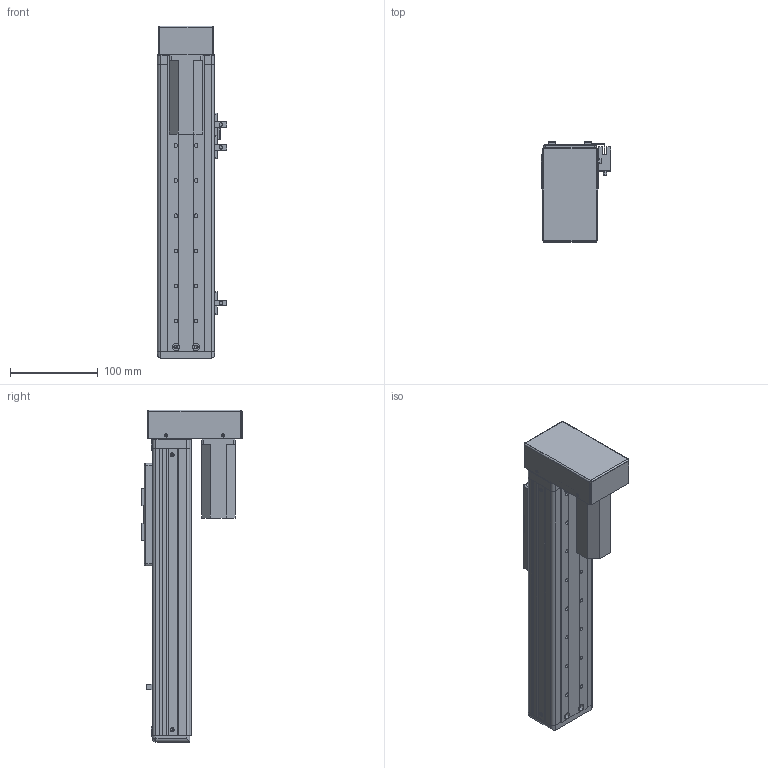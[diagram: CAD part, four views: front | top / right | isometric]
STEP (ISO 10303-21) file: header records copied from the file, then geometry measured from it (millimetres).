
FILE_DESCRIPTION (( 'STEP AP203' ), '1' );
FILE_NAME ('RY60F-L1210-300-BK.SLDASM_150.step', '2021-03-02T06:47:19', ( '盈信电脑' ), ( '东莞市道滘镇水果街19号' ), 'SwSTEP 2.0', 'SolidWorks 2012', '' );
FILE_SCHEMA (( 'CONFIG_CONTROL_DESIGN' ));
Length unit declared in the file: millimetre
Products named in the file (17): RY60F-L1210-300-BK.SLDASM_150; RY60F-狟殏萇儂假蚾啣(100W PCD45 M3); RY60F-狟殏萇儂欶(100W); RY60F-转折电机端丝杆安装座; 俋噤12酗38滅袉蝶; 俋噤12酗29滅袉蝶; 侂狟100W; RY60F-300-蛌殏滅鳥詩え-BK_150; RY50F-300-MR15W蛌殏絳寢-BK_150; 覜茼ん672; RY50-60詩湍揤啣; RY60F-祥凄詩滅鳥裔; RY60F-L1210-300-BK蛌殏俋褲_150; RY60F-嫖萇羲壽結え; RY60F-滅鳥詩え盓殤; RY60F-浮动端丝杆支撑座; RY60F-臏賑輸
Assembly tree (20 placements, depth 2):
  RY60F-L1210-300-BK.SLDASM_150
    RY60F-臏賑輸
    RY60F-浮动端丝杆支撑座
    RY60F-滅鳥詩え盓殤
    RY60F-嫖萇羲壽結え
    RY50-60詩湍揤啣  x2
    RY60F-祥凄詩滅鳥裔
    RY60F-L1210-300-BK蛌殏俋褲_150  x2
    覜茼ん672  x3
    RY60F-300-蛌殏滅鳥詩え-BK_150
    RY50F-300-MR15W蛌殏絳寢-BK_150
    俋噤12酗29滅袉蝶
    俋噤12酗38滅袉蝶
    侂狟100W
    RY60F-转折电机端丝杆安装座
    RY60F-狟殏萇儂假蚾啣(100W PCD45 M3)
    RY60F-狟殏萇儂欶(100W)
Bounding box: 78.7 x 114 x 378 mm (x, y, z)
Volume: 525402.4 mm3; surface area: 323165.5 mm2
Topology: 20 solids, 21 shells, 1033 faces, 2806 edges, 1775 vertices
Faces by surface type: plane 463, cylinder 458, cone 94, bspline 18
Entity records: 31378 total; most frequent: CARTESIAN_POINT 6098, DIRECTION 4957, ORIENTED_EDGE 4776, EDGE_CURVE 2388, AXIS2_PLACEMENT_3D 1754, VERTEX_POINT 1551, VECTOR 1449, LINE 1449
